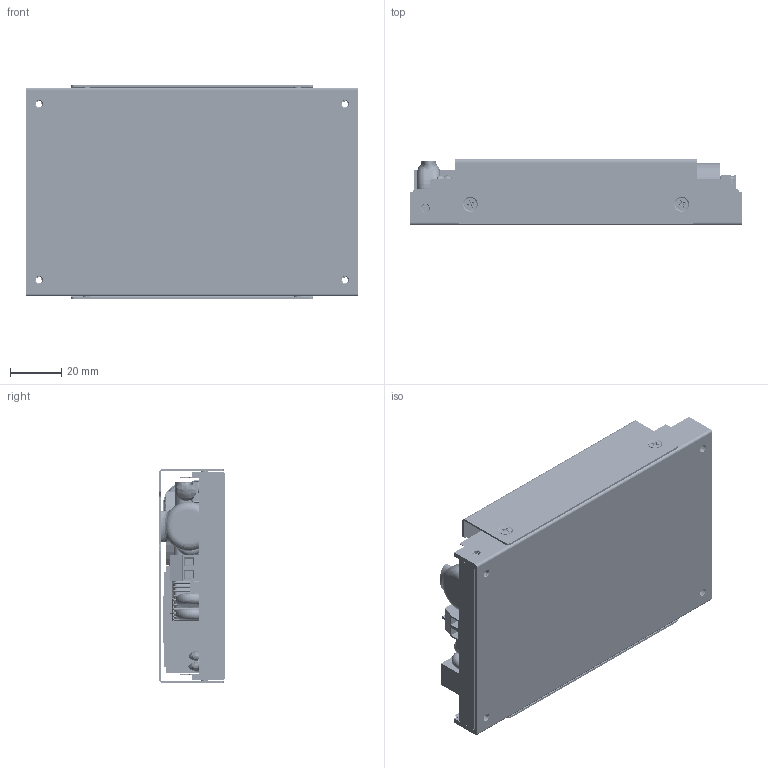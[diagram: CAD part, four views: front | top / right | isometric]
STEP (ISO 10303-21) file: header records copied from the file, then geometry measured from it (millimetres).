
FILE_DESCRIPTION (( 'STEP AP214' ), '1' );
FILE_NAME ('LFM550S(M)XXX-C0.STEP', '2025-11-07T06:48:31', ( 'cincon' ), ( '' ), 'SwSTEP 2.0', 'SolidWorks 2020', '' );
FILE_SCHEMA (( 'AUTOMOTIVE_DESIGN' ));
Length unit declared in the file: millimetre
Products named in the file (1): LFM550S(M)XXX-C0
Bounding box: 129.4 x 25.7 x 83.5 mm (x, y, z)
Volume: 183200.5 mm3; surface area: 86338.8 mm2
Topology: 32 solids, 37 shells, 2815 faces, 7728 edges, 4725 vertices
Faces by surface type: cylinder 1268, plane 824, torus 506, bspline 159, cone 58
Entity records: 145746 total; most frequent: CARTESIAN_POINT 46414, ORIENTED_EDGE 14974, DIRECTION 13830, EDGE_CURVE 7487, AXIS2_PLACEMENT_3D 5336, VERTEX_POINT 4750, LINE 3158, VECTOR 3158
